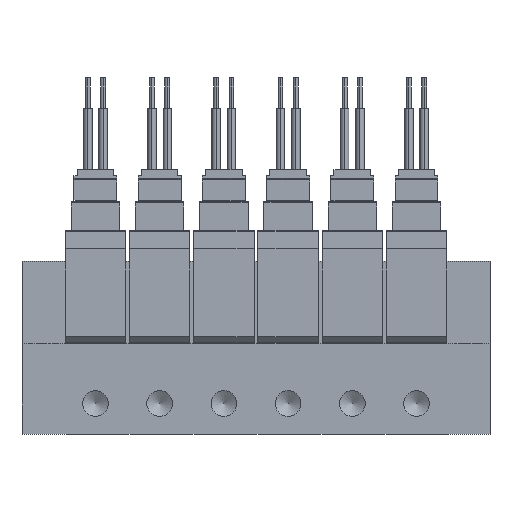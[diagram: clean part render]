
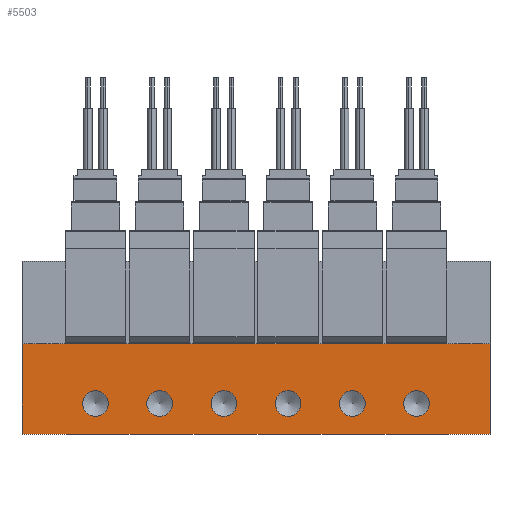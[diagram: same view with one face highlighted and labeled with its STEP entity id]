
A CAD part, front view. The second image highlights one B-rep face of the part: STEP entity #5503.
In plain terms, the highlighted planar face has unit normal (0, -1, 0).
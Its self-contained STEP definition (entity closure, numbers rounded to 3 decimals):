
#5503=ADVANCED_FACE('',(#8616,#8617,#8618,#8619,#8620,#8621,#8622),#8623,.F.);
#8616=FACE_BOUND('',#14856,.T.);
#8617=FACE_BOUND('',#14857,.T.);
#8618=FACE_BOUND('',#14858,.T.);
#8619=FACE_BOUND('',#14859,.T.);
#8620=FACE_BOUND('',#14860,.T.);
#8621=FACE_BOUND('',#14861,.T.);
#8622=FACE_OUTER_BOUND('',#14862,.T.);
#8623=PLANE('',#14863);
#14856=EDGE_LOOP('',(#23027));
#14857=EDGE_LOOP('',(#23028));
#14858=EDGE_LOOP('',(#23029));
#14859=EDGE_LOOP('',(#23030));
#14860=EDGE_LOOP('',(#23031));
#14861=EDGE_LOOP('',(#23032));
#14862=EDGE_LOOP('',(#23033,#23034,#23035,#23036));
#14863=AXIS2_PLACEMENT_3D('',#23037,#23038,#23039);
#23027=ORIENTED_EDGE('',*,*,#47454,.F.);
#23028=ORIENTED_EDGE('',*,*,#47455,.F.);
#23029=ORIENTED_EDGE('',*,*,#47456,.F.);
#23030=ORIENTED_EDGE('',*,*,#47457,.F.);
#23031=ORIENTED_EDGE('',*,*,#47458,.F.);
#23032=ORIENTED_EDGE('',*,*,#47459,.F.);
#23033=ORIENTED_EDGE('',*,*,#47449,.F.);
#23034=ORIENTED_EDGE('',*,*,#47460,.F.);
#23035=ORIENTED_EDGE('',*,*,#47416,.T.);
#23036=ORIENTED_EDGE('',*,*,#47453,.T.);
#23037=CARTESIAN_POINT('',(-76.5,0.,14.8));
#23038=DIRECTION('',(0.0,1.0,0.));
#23039=DIRECTION('',(0.0,0.,1.0));
#47416=EDGE_CURVE('',#55482,#55480,#55483,.T.);
#47449=EDGE_CURVE('',#55541,#55543,#55544,.T.);
#47453=EDGE_CURVE('',#55480,#55543,#55550,.T.);
#47454=EDGE_CURVE('',#55551,#55551,#55552,.T.);
#47455=EDGE_CURVE('',#55553,#55553,#55554,.T.);
#47456=EDGE_CURVE('',#55555,#55555,#55556,.T.);
#47457=EDGE_CURVE('',#55557,#55557,#55558,.T.);
#47458=EDGE_CURVE('',#55559,#55559,#55560,.T.);
#47459=EDGE_CURVE('',#55561,#55561,#55562,.T.);
#47460=EDGE_CURVE('',#55482,#55541,#55563,.T.);
#55480=VERTEX_POINT('',#69142);
#55482=VERTEX_POINT('',#69145);
#55483=LINE('',#69146,#69147);
#55541=VERTEX_POINT('',#69220);
#55543=VERTEX_POINT('',#69223);
#55544=LINE('',#69224,#69225);
#55550=LINE('',#69232,#69233);
#55551=VERTEX_POINT('',#69234);
#55552=CIRCLE('',#69235,2.1);
#55553=VERTEX_POINT('',#69236);
#55554=CIRCLE('',#69237,2.1);
#55555=VERTEX_POINT('',#69238);
#55556=CIRCLE('',#69239,2.1);
#55557=VERTEX_POINT('',#69240);
#55558=CIRCLE('',#69241,2.1);
#55559=VERTEX_POINT('',#69242);
#55560=CIRCLE('',#69243,2.1);
#55561=VERTEX_POINT('',#69244);
#55562=CIRCLE('',#69245,2.1);
#55563=LINE('',#69246,#69247);
#69142=CARTESIAN_POINT('',(-76.5,0.0,0.0));
#69145=CARTESIAN_POINT('',(-76.5,0.,14.8));
#69146=CARTESIAN_POINT('',(-76.5,0.,14.8));
#69147=VECTOR('',#88259,1.0);
#69220=CARTESIAN_POINT('',(0.0,0.,14.8));
#69223=CARTESIAN_POINT('',(0.0,0.0,0.0));
#69224=CARTESIAN_POINT('',(0.0,0.,14.8));
#69225=VECTOR('',#88324,1.0);
#69232=CARTESIAN_POINT('',(-76.5,0.0,0.0));
#69233=VECTOR('',#88332,1.0);
#69234=CARTESIAN_POINT('',(-64.5,0.,2.9));
#69235=AXIS2_PLACEMENT_3D('',#88333,#88334,#88335);
#69236=CARTESIAN_POINT('',(-54.0,0.,2.9));
#69237=AXIS2_PLACEMENT_3D('',#88336,#88337,#88338);
#69238=CARTESIAN_POINT('',(-43.5,0.,2.9));
#69239=AXIS2_PLACEMENT_3D('',#88339,#88340,#88341);
#69240=CARTESIAN_POINT('',(-33.0,0.,2.9));
#69241=AXIS2_PLACEMENT_3D('',#88342,#88343,#88344);
#69242=CARTESIAN_POINT('',(-22.5,0.,2.9));
#69243=AXIS2_PLACEMENT_3D('',#88345,#88346,#88347);
#69244=CARTESIAN_POINT('',(-12.0,0.,2.9));
#69245=AXIS2_PLACEMENT_3D('',#88348,#88349,#88350);
#69246=CARTESIAN_POINT('',(-76.5,0.,14.8));
#69247=VECTOR('',#88351,1.0);
#88259=DIRECTION('',(0.0,0.,-1.0));
#88324=DIRECTION('',(0.0,0.,-1.0));
#88332=DIRECTION('',(1.0,0.0,0.0));
#88333=CARTESIAN_POINT('',(-64.5,0.0,5.0));
#88334=DIRECTION('',(0.0,-1.0,0.));
#88335=DIRECTION('',(0.0,0.,-1.0));
#88336=CARTESIAN_POINT('',(-54.0,0.0,5.0));
#88337=DIRECTION('',(0.0,-1.0,0.));
#88338=DIRECTION('',(0.0,0.,-1.0));
#88339=CARTESIAN_POINT('',(-43.5,0.0,5.0));
#88340=DIRECTION('',(0.0,-1.0,0.));
#88341=DIRECTION('',(0.0,0.,-1.0));
#88342=CARTESIAN_POINT('',(-33.0,0.0,5.0));
#88343=DIRECTION('',(0.0,-1.0,0.));
#88344=DIRECTION('',(0.0,0.,-1.0));
#88345=CARTESIAN_POINT('',(-22.5,0.0,5.0));
#88346=DIRECTION('',(0.0,-1.0,0.));
#88347=DIRECTION('',(0.0,0.,-1.0));
#88348=CARTESIAN_POINT('',(-12.0,0.0,5.0));
#88349=DIRECTION('',(0.0,-1.0,0.));
#88350=DIRECTION('',(0.0,0.,-1.0));
#88351=DIRECTION('',(1.0,0.0,0.0));
